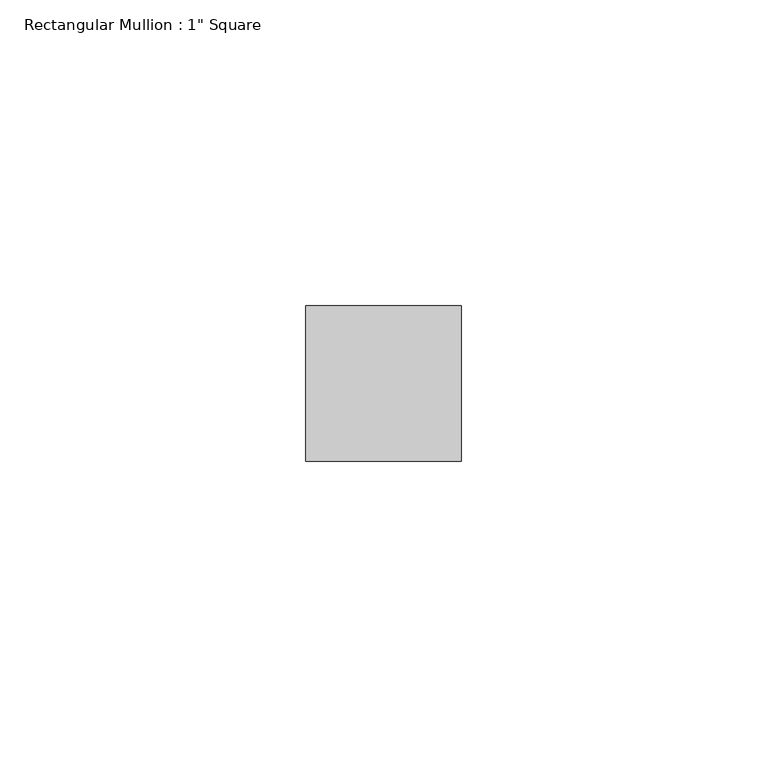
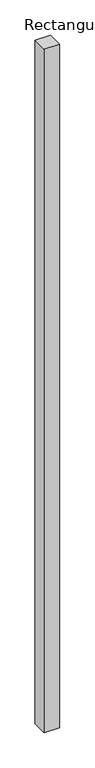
"""IFC4 building model written with IfcOpenShell, lengths in millimetres: member geometry."""

import ifcopenshell
import ifcopenshell.guid

model = None  # the IFC model being written
_history = None  # IfcOwnerHistory: only IFC2X3 demands one
_inside = {}  # id of a spatial element -> (the spatial element, [elements in it])
_under = {}  # id of a project, library or spatial element -> (it, [spatial elements below it])
_declared = {}  # id of a project -> (the project, [libraries it declares])
_typed = {}  # id of a type object -> (the type object, [elements of that type])
_made_of = {}  # id of a material, layer set ... -> (it, [elements and type objects made of it])


def new_model(schema):
    """Start an empty IFC model of exactly this schema.

    Asked for "IFC4X3", IfcOpenShell would pick the latest addendum, in which some entities
    have other attributes; the version numbers below select the first issue.
    IFC2X3 requires an IfcOwnerHistory on every rooted entity: one is made here for all.
    """
    global model, _history
    if schema == "IFC4X3":
        model = ifcopenshell.file(schema_version=(4, 3, 0, 0))
    else:
        model = ifcopenshell.file(schema=schema)
    _inside.clear()
    _under.clear()
    _declared.clear()
    _typed.clear()
    _made_of.clear()
    _history = None
    if model.schema == "IFC2X3":
        org = make("IfcOrganization", Name="unknown")
        user = make(
            "IfcPersonAndOrganization",
            ThePerson=make("IfcPerson", FamilyName="unknown"),
            TheOrganization=org,
        )
        app = make(
            "IfcApplication",
            ApplicationDeveloper=org,
            Version="unknown",
            ApplicationFullName="unknown",
            ApplicationIdentifier="unknown",
        )
        _history = make(
            "IfcOwnerHistory",
            OwningUser=user,
            OwningApplication=app,
            ChangeAction="ADDED",
            CreationDate=0,
        )
    return model


def make(cls, **values):
    """One entity of the class cls with the attributes given. An attribute that is None is left unset."""
    return model.create_entity(
        cls, **{name: value for name, value in values.items() if value is not None}
    )


def rooted(cls, **values):
    """An entity with a GlobalId (a new one), such as an element, a storey or a relation."""
    return make(cls, GlobalId=ifcopenshell.guid.new(), OwnerHistory=_history, **values)


def si_unit(unit_type, name, prefix=None):
    """IfcSIUnit, for example si_unit("LENGTHUNIT", "METRE", prefix="MILLI")."""
    return make("IfcSIUnit", UnitType=unit_type, Prefix=prefix, Name=name)


def assignment(units):
    """IfcUnitAssignment: the units of a project."""
    return None if units is None else make("IfcUnitAssignment", Units=units)


def point(xyz):
    """IfcCartesianPoint."""
    return None if xyz is None else make("IfcCartesianPoint", Coordinates=xyz)


def direction(xyz):
    """IfcDirection."""
    return None if xyz is None else make("IfcDirection", DirectionRatios=xyz)


def frame(location, z_axis=None, x_axis=None):
    """IfcAxis2Placement3D, a coordinate frame: its origin and axes. An axis left out is left unset."""
    return make(
        "IfcAxis2Placement3D",
        Location=point(location),
        Axis=direction(z_axis),
        RefDirection=direction(x_axis),
    )


def origin():
    """The frame at (0, 0, 0) with its axes left unset."""
    return frame((0.0, 0.0, 0.0))


def place(relative_to, where):
    """IfcLocalPlacement: puts the frame where relative to a parent placement (None: the world)."""
    return make(
        "IfcLocalPlacement", PlacementRelTo=relative_to, RelativePlacement=where
    )


def context(
    kind, dimensions, precision=None, world=None, true_north=None, identifier=None
):
    """IfcGeometricRepresentationContext, for example the 3D "Model" context."""
    return make(
        "IfcGeometricRepresentationContext",
        ContextIdentifier=identifier,
        ContextType=kind,
        CoordinateSpaceDimension=dimensions,
        Precision=precision,
        WorldCoordinateSystem=world,
        TrueNorth=true_north,
    )


def project(units=None, contexts=None):
    """IfcProject with its units and contexts."""
    return rooted(
        "IfcProject",
        Name="project",
        RepresentationContexts=contexts,
        UnitsInContext=assignment(units),
    )


def spatial(cls, under=None, at=None, **own):
    """A site, building, storey or space (cls), placed at a placement, below another one or the project."""
    s = rooted(cls, ObjectPlacement=at, **own)
    if under is not None:
        _under.setdefault(under.id(), (under, []))[1].append(s)
    return s


def polyline(points):
    """IfcPolyline through the points."""
    return make("IfcPolyline", Points=[point(p) for p in points])


def outline(outer, holes=None, kind="AREA"):
    """IfcArbitraryClosedProfileDef: a profile drawn as a closed curve; with holes, ...WithVoids."""
    if holes is None:
        return make("IfcArbitraryClosedProfileDef", ProfileType=kind, OuterCurve=outer)
    return make(
        "IfcArbitraryProfileDefWithVoids",
        ProfileType=kind,
        OuterCurve=outer,
        InnerCurves=holes,
    )


def extrude(swept, where, along, depth):
    """IfcExtrudedAreaSolid: the profile swept, set in the frame where, extruded along a direction by depth."""
    return make(
        "IfcExtrudedAreaSolid",
        SweptArea=swept,
        Position=where,
        ExtrudedDirection=direction(along),
        Depth=depth,
    )


def shape(context_of_items, identifier, shape_type, items):
    """IfcShapeRepresentation: the items that make up one representation, for example the "Body"."""
    return make(
        "IfcShapeRepresentation",
        ContextOfItems=context_of_items,
        RepresentationIdentifier=identifier,
        RepresentationType=shape_type,
        Items=items,
    )


def source(mapping_origin, context_of_items, identifier, shape_type, items):
    """IfcRepresentationMap: a shape defined once, which mapped items show again and again."""
    return make(
        "IfcRepresentationMap",
        MappingOrigin=mapping_origin,
        MappedRepresentation=shape(context_of_items, identifier, shape_type, items),
    )


def transform(
    local_origin,
    x_axis=None,
    y_axis=None,
    z_axis=None,
    scale=None,
    scale2=None,
    scale3=None,
    uniform=True,
):
    """IfcCartesianTransformationOperator3D, or its non-uniform kind. x_axis, y_axis, z_axis: its Axis1, 2, 3."""
    if uniform:
        return make(
            "IfcCartesianTransformationOperator3D",
            Axis1=direction(x_axis),
            Axis2=direction(y_axis),
            LocalOrigin=point(local_origin),
            Scale=scale,
            Axis3=direction(z_axis),
        )
    return make(
        "IfcCartesianTransformationOperator3DnonUniform",
        Axis1=direction(x_axis),
        Axis2=direction(y_axis),
        LocalOrigin=point(local_origin),
        Scale=scale,
        Axis3=direction(z_axis),
        Scale2=scale2,
        Scale3=scale3,
    )


def mapped(mapping_source, mapping_target):
    """IfcMappedItem: shows the shape of a source again, moved by a transform."""
    return make(
        "IfcMappedItem", MappingSource=mapping_source, MappingTarget=mapping_target
    )


def made_of(thing, what):
    """Note that an element or type object is made of a material, layer set ...; save() writes the relation."""
    if what is not None:
        _made_of.setdefault(what.id(), (what, []))[1].append(thing)
    return thing


def element(
    cls,
    number,
    at=None,
    inside=None,
    cuts=None,
    type_object=None,
    material=None,
    context=None,
    identifier="Body",
    shape_type=None,
    held_by="IfcProductDefinitionShape",
    body=None,
    shapes=None,
    **own,
):
    """One element of the class cls, such as IfcWall. Its Tag is "e" and its number.

    at: its placement. inside: the storey or other place that contains it. cuts: it is an
    opening in that element (IfcRelVoidsElement). A single representation is given by context,
    identifier, shape_type and body (its items); several are given by shapes. held_by: the class
    of the entity that holds the representations. save() writes the other relations.
    """
    e = rooted(cls, Tag="e%d" % number, ObjectPlacement=at, **own)
    if body is not None:
        shapes = [shape(context, identifier, shape_type, body)]
    if shapes is not None:
        e.Representation = make(held_by, Representations=shapes)
    if inside is not None:
        _inside.setdefault(inside.id(), (inside, []))[1].append(e)
    if cuts is not None:
        rooted(
            "IfcRelVoidsElement", RelatingBuildingElement=cuts, RelatedOpeningElement=e
        )
    if type_object is not None:
        _typed.setdefault(type_object.id(), (type_object, []))[1].append(e)
    return made_of(e, material)


def aggregate(whole, parts):
    """IfcRelAggregates: a whole, such as a stair, and the parts it consists of."""
    return rooted("IfcRelAggregates", RelatingObject=whole, RelatedObjects=parts)


def save(model, path):
    """Write the relations noted so far, then the file.

    IfcRelAggregates (storeys below a building ...), IfcRelContainedInSpatialStructure (elements
    in a storey), IfcRelDefinesByType, IfcRelAssociatesMaterial and IfcRelDeclares: one each for
    every whole, place, type object, material and project.
    """
    for whole, parts in _under.values():
        aggregate(whole, parts)
    for where, things in _inside.values():
        rooted(
            "IfcRelContainedInSpatialStructure",
            RelatedElements=things,
            RelatingStructure=where,
        )
    for kind, things in _typed.values():
        rooted("IfcRelDefinesByType", RelatedObjects=things, RelatingType=kind)
    for what, things in _made_of.values():
        rooted("IfcRelAssociatesMaterial", RelatedObjects=things, RelatingMaterial=what)
    for by, libraries in _declared.values():
        rooted("IfcRelDeclares", RelatingContext=by, RelatedDefinitions=libraries)
    model.write(path)


def member_8d5cdd9e(model_context):
    return source(origin(), model_context, "Body", "SweptSolid", [
        extrude(outline(polyline([(12.7, 12.7), (12.7, -12.7), (-12.7, -12.7), (-12.7, 12.7), (12.7, 12.7)])), frame((0.0, 0.0, -1179.9), z_axis=(0.0, 0.0, 1.0), x_axis=(1.0, 0.0, 0.0)), (0.0, 0.0, 1.0), 1179.9),
    ])


if __name__ == "__main__":
    model = new_model("IFC4")
    model_context = context("Model", 3, world=origin())
    ifc_project = project(units=[si_unit("LENGTHUNIT", "METRE", prefix="MILLI")], contexts=[model_context])
    site = spatial("IfcSite", under=ifc_project)
    building = spatial("IfcBuilding", under=site)
    placement = place(None, origin())
    member_shape = member_8d5cdd9e(model_context)
    element("IfcMember", 1, ObjectType="Rectangular Mullion : 1\" Square", at=placement, inside=building, context=model_context, shape_type="MappedRepresentation", body=[
        mapped(member_shape, transform((0.0, 0.0, 0.0), x_axis=(1.0, 0.0, 0.0), y_axis=(0.0, 1.0, 0.0), z_axis=(0.0, 0.0, 1.0))),
    ])
    save(model, "model.ifc")
